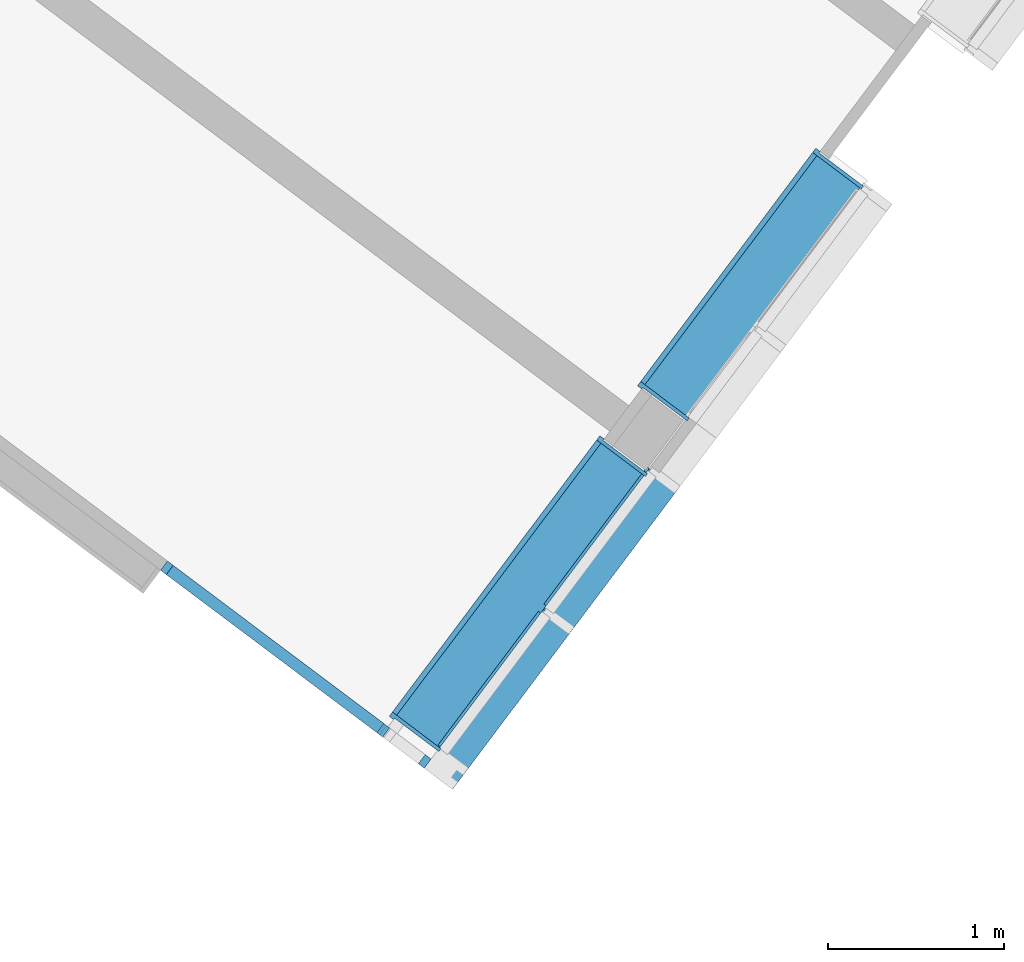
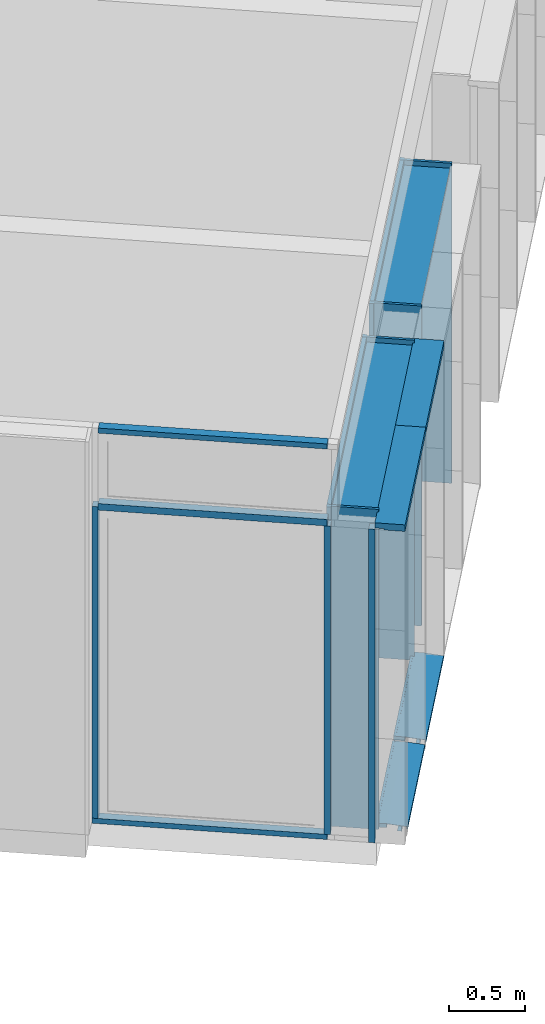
# One storey, part 15 of 243: 16 members, 4 elements without a shape of their own.
"""IFC2X3 building model written with IfcOpenShell, lengths in metres."""

from ifc_helpers import new_model, entity, si_unit, converted_unit, derived_unit, direction, frame, frame_2d, origin, origin_2d_with_axis, place, context, subcontext, project, spatial, polyline, circle_curve, parameter, trimmed, segment, composite_curve, rectangle, outline, extrude, source, transform, mapped, material, type_object, type_shapes, element, aggregate, save


model = new_model("IFC2X3")

# Units and contexts
model_context = context("Model", 3, precision=1e-05, world=origin(), true_north=direction((6.123031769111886e-17, 1.0)))
body_context = subcontext(model_context, "Body", "Model", "MODEL_VIEW")
ifc_project = project(units=[si_unit("LENGTHUNIT", "METRE"), si_unit("AREAUNIT", "SQUARE_METRE"), si_unit("VOLUMEUNIT", "CUBIC_METRE"), converted_unit("PLANEANGLEUNIT", "DEGREE", entity("IfcRatioMeasure", 0.017453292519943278), si_unit("PLANEANGLEUNIT", "RADIAN"), dimensions=[0, 0, 0, 0, 0, 0, 0]), si_unit("MASSUNIT", "GRAM", prefix="KILO"), derived_unit("MASSDENSITYUNIT", [(si_unit("MASSUNIT", "GRAM", prefix="KILO"), 1), (si_unit("LENGTHUNIT", "METRE"), -3)]), derived_unit("IONCONCENTRATIONUNIT", [(si_unit("MASSUNIT", "GRAM", prefix="KILO"), 1), (si_unit("LENGTHUNIT", "METRE"), -3)]), derived_unit("MOMENTOFINERTIAUNIT", [(si_unit("LENGTHUNIT", "METRE"), 4)]), si_unit("TIMEUNIT", "SECOND"), si_unit("FREQUENCYUNIT", "HERTZ"), si_unit("THERMODYNAMICTEMPERATUREUNIT", "DEGREE_CELSIUS"), derived_unit("THERMALTRANSMITTANCEUNIT", [(si_unit("MASSUNIT", "GRAM", prefix="KILO"), 1), (si_unit("THERMODYNAMICTEMPERATUREUNIT", "KELVIN"), -1), (si_unit("TIMEUNIT", "SECOND"), -3)]), derived_unit("THERMALCONDUCTANCEUNIT", [(si_unit("MASSUNIT", "GRAM", prefix="KILO"), 1), (si_unit("THERMODYNAMICTEMPERATUREUNIT", "KELVIN"), -1), (si_unit("TIMEUNIT", "SECOND"), -3), (si_unit("LENGTHUNIT", "METRE"), 1)]), derived_unit("VOLUMETRICFLOWRATEUNIT", [(si_unit("LENGTHUNIT", "METRE"), 3), (si_unit("TIMEUNIT", "SECOND"), -1)]), derived_unit("MASSFLOWRATEUNIT", [(si_unit("MASSUNIT", "GRAM", prefix="KILO"), 1), (si_unit("TIMEUNIT", "SECOND"), -1)]), derived_unit("ROTATIONALFREQUENCYUNIT", [(si_unit("TIMEUNIT", "SECOND"), -1)]), si_unit("ELECTRICCURRENTUNIT", "AMPERE"), si_unit("ELECTRICVOLTAGEUNIT", "VOLT"), si_unit("POWERUNIT", "WATT"), si_unit("FORCEUNIT", "NEWTON", prefix="KILO"), si_unit("ILLUMINANCEUNIT", "LUX"), si_unit("LUMINOUSFLUXUNIT", "LUMEN"), si_unit("LUMINOUSINTENSITYUNIT", "CANDELA"), derived_unit("USERDEFINED", [(si_unit("MASSUNIT", "GRAM", prefix="KILO"), -1), (si_unit("LENGTHUNIT", "METRE"), -2), (si_unit("TIMEUNIT", "SECOND"), 3), (si_unit("LUMINOUSFLUXUNIT", "LUMEN"), 1)]), derived_unit("USERDEFINED", [(si_unit("MASSUNIT", "GRAM", prefix="KILO"), 1), (si_unit("TIMEUNIT", "SECOND"), -3), (si_unit("LENGTHUNIT", "METRE"), 3), (si_unit("ELECTRICCURRENTUNIT", "AMPERE"), -2)]), derived_unit("SOUNDPOWERUNIT", [(si_unit("MASSUNIT", "GRAM", prefix="KILO"), 1), (si_unit("TIMEUNIT", "SECOND"), -3), (si_unit("LENGTHUNIT", "METRE"), 2)]), derived_unit("SOUNDPRESSUREUNIT", [(si_unit("MASSUNIT", "GRAM", prefix="KILO"), 1), (si_unit("LENGTHUNIT", "METRE"), -1), (si_unit("TIMEUNIT", "SECOND"), -2)]), derived_unit("LINEARVELOCITYUNIT", [(si_unit("LENGTHUNIT", "METRE"), 1), (si_unit("TIMEUNIT", "SECOND"), -1)]), si_unit("PRESSUREUNIT", "PASCAL"), derived_unit("USERDEFINED", [(si_unit("MASSUNIT", "GRAM", prefix="KILO"), 1), (si_unit("LENGTHUNIT", "METRE"), -2), (si_unit("TIMEUNIT", "SECOND"), -2)]), derived_unit("LINEARFORCEUNIT", [(si_unit("MASSUNIT", "GRAM", prefix="KILO"), 1), (si_unit("TIMEUNIT", "SECOND"), -2)]), derived_unit("PLANARFORCEUNIT", [(si_unit("MASSUNIT", "GRAM", prefix="KILO"), 1), (si_unit("LENGTHUNIT", "METRE"), -1), (si_unit("TIMEUNIT", "SECOND"), -2)]), derived_unit("SPECIFICHEATCAPACITYUNIT", [(si_unit("THERMODYNAMICTEMPERATUREUNIT", "KELVIN"), -1), (si_unit("LENGTHUNIT", "METRE"), 2), (si_unit("TIMEUNIT", "SECOND"), -2)]), derived_unit("HEATINGVALUEUNIT", [(si_unit("LENGTHUNIT", "METRE"), 2), (si_unit("TIMEUNIT", "SECOND"), -2)]), derived_unit("VAPORPERMEABILITYUNIT", [(si_unit("LENGTHUNIT", "METRE"), -1), (si_unit("TIMEUNIT", "SECOND"), 1)]), derived_unit("DYNAMICVISCOSITYUNIT", [(si_unit("MASSUNIT", "GRAM", prefix="KILO"), 1), (si_unit("TIMEUNIT", "SECOND"), -1), (si_unit("LENGTHUNIT", "METRE"), -1)]), derived_unit("THERMALEXPANSIONCOEFFICIENTUNIT", [(si_unit("THERMODYNAMICTEMPERATUREUNIT", "KELVIN"), -1)]), derived_unit("MODULUSOFELASTICITYUNIT", [(si_unit("MASSUNIT", "GRAM", prefix="KILO"), 1), (si_unit("LENGTHUNIT", "METRE"), -1), (si_unit("TIMEUNIT", "SECOND"), -2)]), derived_unit("ISOTHERMALMOISTURECAPACITYUNIT", [(si_unit("LENGTHUNIT", "METRE"), 3), (si_unit("MASSUNIT", "GRAM", prefix="KILO"), -1)]), derived_unit("MOISTUREDIFFUSIVITYUNIT", [(si_unit("TIMEUNIT", "SECOND"), -1), (si_unit("LENGTHUNIT", "METRE"), 2)])], contexts=[model_context])

# Site, building, storey
site_placement = place(None, frame((0.0, 0.0, 235.0), z_axis=(0.0, 0.0, 1.0), x_axis=(-0.7996477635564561, 0.6004693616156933, 0.0)))
site = spatial("IfcSite", under=ifc_project, at=site_placement, Name="Default", CompositionType="ELEMENT")
building_placement = place(site_placement, origin())
building = spatial("IfcBuilding", under=site, at=building_placement, CompositionType="ELEMENT")
storey_placement = place(building_placement, origin())
storey = spatial("IfcBuildingStorey", under=building, at=storey_placement, Name="P0- Escola", CompositionType="ELEMENT", Elevation=0.0)

# Curtain wall, members
curtain_wall_type_1 = type_object("IfcCurtainWallType", Name="Muro cortina:MC- EXT- MC2", PredefinedType="NOTDEFINED")
curtain_wall_1_placement = place(storey_placement, origin())
curtain_wall_1 = element("IfcCurtainWall", 1, at=curtain_wall_1_placement, inside=storey, type_object=curtain_wall_type_1, Name="Muro cortina:MC- EXT- MC2", ObjectType="Muro cortina:MC- EXT- MC2")
ifc_material_1 = material(Name="_Alumini- T1- Perfil")
member_type_1 = type_object("IfcMemberType", Name="Montante rectangular:MC- Alu- 140x52,5 cm- Fa patis- Superior", PredefinedType="MULLION", material=ifc_material_1)
shared_shape_1 = source(origin(), body_context, "Body", "SweptSolid", [
    extrude(outline(polyline([(-0.11366666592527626, -0.021249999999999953), (0.026333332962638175, -0.021249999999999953), (0.026333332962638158, -0.010000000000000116), (0.0873333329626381, -0.010000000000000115), (0.0873333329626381, 0.03125000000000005), (-0.11366666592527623, 0.031250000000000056), (-0.11366666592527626, -0.021249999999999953)])), frame((-0.031250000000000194, 0.0273333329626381, -1.0), z_axis=(0.0, 0.0, 1.0), x_axis=(0.0, -1.0, 0.0)), (0.0, 0.0, 1.0), 0.9999999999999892),
])
type_shapes(member_type_1, [shared_shape_1])
member_1_placement = place(curtain_wall_1_placement, frame((28.34514768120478, -22.415191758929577, 2.545), z_axis=(0.0, -1.0, 0.0), x_axis=(0.0, 0.0, 1.0)))
member_1 = element("IfcMember", 2, at=member_1_placement, type_object=member_type_1, material=ifc_material_1, Name="Montante rectangular:MC- Alu- 140x52,5 cm- Fa patis- Superior", ObjectType="Montante rectangular:MC- Alu- 140x52,5 cm- Fa patis- Superior", context=body_context, shape_type="MappedRepresentation", body=[
    mapped(shared_shape_1, transform((0.0, 0.0, 0.0), scale=1.0)),
])
member_type_2 = type_object("IfcMemberType", Name="Montante rectangular:MC- Alu- 140x52,5 cm- Fa patis- inferior", PredefinedType="MULLION", material=ifc_material_1)
shared_shape_2 = source(origin(), body_context, "Body", "SweptSolid", [
    extrude(outline(composite_curve([segment(polyline([(0.1278672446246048, -0.02586710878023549), (0.14416724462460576, -0.025867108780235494)]), True, "CONTINUOUS"), segment(polyline([(0.14416724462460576, -0.025867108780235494), (0.1441672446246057, 0.009132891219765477)]), True, "CONTINUOUS"), segment(polyline([(0.1441672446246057, 0.009132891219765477), (0.06786724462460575, 0.009132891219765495)]), True, "CONTINUOUS"), segment(polyline([(0.06786724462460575, 0.009132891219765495), (0.06786724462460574, -0.021159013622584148)]), True, "CONTINUOUS"), segment(polyline([(0.06786724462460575, -0.02115901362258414), (-0.030132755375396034, -0.012332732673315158)]), True, "CONTINUOUS"), segment(polyline([(-0.03013275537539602, -0.012332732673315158), (-0.030132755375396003, 0.027132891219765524)]), True, "CONTINUOUS"), segment(polyline([(-0.030132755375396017, 0.02713289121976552), (-0.0021327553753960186, 0.02713289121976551)]), True, "CONTINUOUS"), segment(polyline([(-0.0021327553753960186, 0.027132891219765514), (-0.0021327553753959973, 0.029132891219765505)]), True, "CONTINUOUS"), segment(polyline([(-0.0021327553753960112, 0.029132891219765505), (-0.032132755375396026, 0.029132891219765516)]), True, "CONTINUOUS"), segment(polyline([(-0.032132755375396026, 0.029132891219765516), (-0.03213275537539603, -0.012152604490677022)]), True, "CONTINUOUS"), segment(polyline([(-0.03213275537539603, -0.012152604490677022), (-0.0701327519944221, -0.008730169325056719)]), True, "CONTINUOUS"), segment(polyline([(-0.0701327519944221, -0.008730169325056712), (-0.0701327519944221, 0.005766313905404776)]), True, "CONTINUOUS"), segment(trimmed(circle_curve(frame_2d((-0.0696327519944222, 0.0057663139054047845), x_axis=(-1.0, 0.0)), 0.0004999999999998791), [parameter(269.999999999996)], [parameter(0.0)], True, "PARAMETER"), False, "CONTINUOUS"), segment(polyline([(-0.0696327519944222, 0.00626631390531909), (-0.06213275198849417, 0.006266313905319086)]), True, "CONTINUOUS"), segment(polyline([(-0.06213275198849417, 0.006266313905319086), (-0.06213275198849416, 0.008266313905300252)]), True, "CONTINUOUS"), segment(polyline([(-0.06213275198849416, 0.008266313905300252), (-0.07013275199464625, 0.008266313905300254)]), True, "CONTINUOUS"), segment(trimmed(circle_curve(frame_2d((-0.07013275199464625, 0.006266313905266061), x_axis=(0.0, 1.0)), 0.0020000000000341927), [parameter(0.0)], [parameter(90.00000002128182)], True, "PARAMETER"), True, "CONTINUOUS"), segment(polyline([(-0.07213275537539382, 0.006266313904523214), (-0.07213275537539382, -0.008730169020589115)]), True, "CONTINUOUS"), segment(trimmed(circle_curve(frame_2d((-0.07013275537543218, -0.008730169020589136), x_axis=(-1.0, 0.0)), 0.0019999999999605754), [parameter(0.0)], [parameter(84.85359280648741)], True, "PARAMETER"), True, "CONTINUOUS"), segment(polyline([(-0.07031215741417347, -0.01072210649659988), (0.06786724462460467, -0.023167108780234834)]), True, "CONTINUOUS"), segment(polyline([(0.06786724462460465, -0.023167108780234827), (0.12786724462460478, -0.023167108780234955)]), True, "CONTINUOUS"), segment(polyline([(0.12786724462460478, -0.023167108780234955), (0.1278672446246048, -0.02586710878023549)]), True, "CONTINUOUS")], self_intersect=False)), frame((-0.029132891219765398, 0.06786724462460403, -0.9737499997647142), z_axis=(0.0, 0.0, 1.0), x_axis=(0.0, -1.0, 0.0)), (0.0, 0.0, 1.0), 0.9737499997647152),
])
type_shapes(member_type_2, [shared_shape_2])
member_2_placement = place(curtain_wall_1_placement, frame((28.345147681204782, -21.441441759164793, -0.02), z_axis=(0.0, 1.0, 0.0), x_axis=(0.0, 0.0, -1.0)))
member_2 = element("IfcMember", 3, at=member_2_placement, type_object=member_type_2, material=ifc_material_1, Name="Montante rectangular:MC- Alu- 140x52,5 cm- Fa patis- inferior", ObjectType="Montante rectangular:MC- Alu- 140x52,5 cm- Fa patis- inferior", context=body_context, shape_type="MappedRepresentation", body=[
    mapped(shared_shape_2, transform((0.0, 0.0, 0.0), scale=1.0)),
])

curtain_wall_type_2 = type_object("IfcCurtainWallType", Name="Muro cortina:MC- INT- k7- Aules infantil", PredefinedType="NOTDEFINED")
curtain_wall_2_placement = place(storey_placement, origin())
curtain_wall_2 = element("IfcCurtainWall", 4, at=curtain_wall_2_placement, inside=storey, type_object=curtain_wall_type_2, Name="Muro cortina:MC- INT- k7- Aules infantil", ObjectType="Muro cortina:MC- INT- k7- Aules infantil")
ifc_material_2 = material(Name="_Fusta massisa- T1")
member_type_3 = type_object("IfcMemberType", Name="Montante rectangular:MC- Fusta- 35x3 cm- Pati aules- Remat esquerra", PredefinedType="MULLION", material=ifc_material_2)
shared_shape_3 = source(origin(), body_context, "Body", "SweptSolid", [
    extrude(outline(polyline([(-0.22000000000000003, -0.01666666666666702), (0.12500000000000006, -0.01666666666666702), (0.125, 0.013333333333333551), (0.09500000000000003, 0.013333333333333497), (0.09500000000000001, 0.003333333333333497), (-0.22000000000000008, 0.003333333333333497), (-0.22000000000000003, -0.01666666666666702)])), frame((-0.013333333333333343, 0.03000000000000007, -2.5649999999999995), z_axis=(0.0, 0.0, 1.0), x_axis=(0.0, -1.0, 0.0)), (0.0, 0.0, 1.0), 2.565),
])
type_shapes(member_type_3, [shared_shape_3])
member_3_placement = place(curtain_wall_2_placement, frame((28.64514768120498, -20.405191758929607, 2.565), z_axis=(0.0, 0.0, 1.0), x_axis=(0.0, 1.0, 0.0)))
member_3 = element("IfcMember", 5, at=member_3_placement, type_object=member_type_3, material=ifc_material_2, Name="Montante rectangular:MC- Fusta- 35x3 cm- Pati aules- Remat esquerra", ObjectType="Montante rectangular:MC- Fusta- 35x3 cm- Pati aules- Remat esquerra", context=body_context, shape_type="MappedRepresentation", body=[
    mapped(shared_shape_3, transform((0.0, 0.0, 0.0), scale=1.0)),
])
member_type_4 = type_object("IfcMemberType", Name="Montante rectangular:MC- Fusta- 35x3 cm- Pati aules- Remat dreta", PredefinedType="MULLION", material=ifc_material_2)
shared_shape_4 = source(origin(), body_context, "Body", "SweptSolid", [
    extrude(outline(polyline([(-0.22000000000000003, -0.01666666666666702), (0.12500000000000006, -0.01666666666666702), (0.125, 0.013333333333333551), (0.09500000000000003, 0.013333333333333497), (0.09500000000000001, 0.003333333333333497), (-0.22000000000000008, 0.003333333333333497), (-0.22000000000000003, -0.01666666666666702)])), frame((-0.013333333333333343, 0.03000000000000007, -2.5649999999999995), z_axis=(0.0, 0.0, 1.0), x_axis=(0.0, -1.0, 0.0)), (0.0, 0.0, 1.0), 2.565),
])
type_shapes(member_type_4, [shared_shape_4])
member_4_placement = place(curtain_wall_2_placement, frame((28.645147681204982, -22.395191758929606, 0.0), z_axis=(0.0, 0.0, -1.0), x_axis=(0.0, -1.0, 0.0)))
member_4 = element("IfcMember", 6, at=member_4_placement, type_object=member_type_4, material=ifc_material_2, Name="Montante rectangular:MC- Fusta- 35x3 cm- Pati aules- Remat dreta", ObjectType="Montante rectangular:MC- Fusta- 35x3 cm- Pati aules- Remat dreta", context=body_context, shape_type="MappedRepresentation", body=[
    mapped(shared_shape_4, transform((0.0, 0.0, 0.0), scale=1.0)),
])

# Curtain wall, member
curtain_wall_3_placement = place(storey_placement, origin())
curtain_wall_3 = element("IfcCurtainWall", 7, at=curtain_wall_3_placement, inside=storey, type_object=curtain_wall_type_2, Name="Muro cortina:MC- INT- k7- Aules infantil", ObjectType="Muro cortina:MC- INT- k7- Aules infantil")
member_5_placement = place(curtain_wall_3_placement, frame((28.64514768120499, -24.435191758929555, 0.0), z_axis=(0.0, 0.0, -1.0), x_axis=(0.0, -1.0, 0.0)))
member_5 = element("IfcMember", 8, at=member_5_placement, type_object=member_type_4, material=ifc_material_2, Name="Montante rectangular:MC- Fusta- 35x3 cm- Pati aules- Remat dreta", ObjectType="Montante rectangular:MC- Fusta- 35x3 cm- Pati aules- Remat dreta", context=body_context, shape_type="MappedRepresentation", body=[
    mapped(shared_shape_4, transform((0.0, 0.0, 0.0), scale=1.0)),
])

# Member
member_type_5 = type_object("IfcMemberType", Name="Montante rectangular:MC- Fusta- 35x3 cm- Pati aules- Remat superior", PredefinedType="MULLION", material=ifc_material_2)
shared_shape_5 = source(origin(), body_context, "Body", "SweptSolid", [
    extrude(outline(polyline([(-0.21333333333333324, -0.02666666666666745), (0.1216666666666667, -0.02666666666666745), (0.1216666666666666, 0.03333333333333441), (0.09166666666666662, 0.03333333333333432), (0.09166666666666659, -0.006666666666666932), (-0.21333333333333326, -0.006666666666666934), (-0.21333333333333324, -0.02666666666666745)])), frame((-0.033333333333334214, 0.02666666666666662, -1.929999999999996), z_axis=(0.0, 0.0, 1.0), x_axis=(0.0, -1.0, 0.0)), (0.0, 0.0, 1.0), 1.9299999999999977),
])
type_shapes(member_type_5, [shared_shape_5])
member_6_placement = place(curtain_wall_2_placement, frame((28.645147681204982, -22.365191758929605, 2.565), z_axis=(0.0, -1.0, 0.0), x_axis=(0.0, 0.0, 1.0)))
member_6 = element("IfcMember", 9, at=member_6_placement, type_object=member_type_5, material=ifc_material_2, Name="Montante rectangular:MC- Fusta- 35x3 cm- Pati aules- Remat superior", ObjectType="Montante rectangular:MC- Fusta- 35x3 cm- Pati aules- Remat superior", context=body_context, shape_type="MappedRepresentation", body=[
    mapped(shared_shape_5, transform((0.0, 0.0, 0.0), scale=1.0)),
])

aggregate(curtain_wall_2, [member_3, member_4, member_6])

member_type_6 = type_object("IfcMemberType", Name="Montante rectangular:MC- Fusta- 35x3 cm- Pati aules- Remat esquerra", PredefinedType="MULLION", material=ifc_material_2)
shared_shape_6 = source(origin(), body_context, "Body", "SweptSolid", [
    extrude(outline(polyline([(-0.22000000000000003, -0.01666666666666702), (0.12500000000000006, -0.01666666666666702), (0.12499999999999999, 0.013333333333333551), (0.09500000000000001, 0.013333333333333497), (0.09499999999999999, 0.003333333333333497), (-0.22, 0.003333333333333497), (-0.22000000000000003, -0.01666666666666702)])), frame((-0.013333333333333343, 0.030000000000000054, -2.5649999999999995), z_axis=(0.0, 0.0, 1.0), x_axis=(0.0, -1.0, 0.0)), (0.0, 0.0, 1.0), 2.565),
])
type_shapes(member_type_6, [shared_shape_6])
member_7_placement = place(curtain_wall_3_placement, frame((28.645147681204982, -22.750191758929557, 2.565), z_axis=(0.0, 0.0, 1.0), x_axis=(0.0, 1.0, 0.0)))
member_7 = element("IfcMember", 10, at=member_7_placement, type_object=member_type_6, material=ifc_material_2, Name="Montante rectangular:MC- Fusta- 35x3 cm- Pati aules- Remat esquerra", ObjectType="Montante rectangular:MC- Fusta- 35x3 cm- Pati aules- Remat esquerra", context=body_context, shape_type="MappedRepresentation", body=[
    mapped(shared_shape_6, transform((0.0, 0.0, 0.0), scale=1.0)),
])

member_type_7 = type_object("IfcMemberType", Name="Montante rectangular:MC- Fusta- 35x3 cm- Pati aules- Remat superior", PredefinedType="MULLION", material=ifc_material_2)
shared_shape_7 = source(origin(), body_context, "Body", "SweptSolid", [
    extrude(outline(polyline([(-0.2133333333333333, -0.02666666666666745), (0.12166666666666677, -0.02666666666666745), (0.1216666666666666, 0.03333333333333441), (0.09166666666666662, 0.03333333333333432), (0.0916666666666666, -0.006666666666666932), (-0.21333333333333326, -0.006666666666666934), (-0.2133333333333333, -0.02666666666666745)])), frame((-0.033333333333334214, 0.026666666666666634, -1.624999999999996), z_axis=(0.0, 0.0, 1.0), x_axis=(0.0, -1.0, 0.0)), (0.0, 0.0, 1.0), 1.6249999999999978),
])
type_shapes(member_type_7, [shared_shape_7])
member_8_placement = place(curtain_wall_3_placement, frame((28.64514768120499, -24.40519175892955, 2.565), z_axis=(0.0, -1.0, 0.0), x_axis=(0.0, 0.0, 1.0)))
member_8 = element("IfcMember", 11, at=member_8_placement, type_object=member_type_7, material=ifc_material_2, Name="Montante rectangular:MC- Fusta- 35x3 cm- Pati aules- Remat superior", ObjectType="Montante rectangular:MC- Fusta- 35x3 cm- Pati aules- Remat superior", context=body_context, shape_type="MappedRepresentation", body=[
    mapped(shared_shape_7, transform((0.0, 0.0, 0.0), scale=1.0)),
])

aggregate(curtain_wall_3, [member_8, member_5, member_7])

member_type_8 = type_object("IfcMemberType", Name="Montante rectangular:MC- Alu- 140x52,5 cm- Fa patis- Superior", PredefinedType="MULLION", material=ifc_material_1)
shared_shape_8 = source(origin(), body_context, "Body", "SweptSolid", [
    extrude(outline(polyline([(-0.11366666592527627, -0.021249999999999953), (0.02633333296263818, -0.021249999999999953), (0.02633333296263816, -0.010000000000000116), (0.08733333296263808, -0.010000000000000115), (0.08733333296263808, 0.03125000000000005), (-0.11366666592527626, 0.031250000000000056), (-0.11366666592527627, -0.021249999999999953)])), frame((-0.031250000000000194, 0.027333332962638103, -1.1262500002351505), z_axis=(0.0, 0.0, 1.0), x_axis=(0.0, -1.0, 0.0)), (0.0, 0.0, 1.0), 1.1262500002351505),
])
type_shapes(member_type_8, [shared_shape_8])
member_9_placement = place(curtain_wall_1_placement, frame((28.345147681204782, -21.415191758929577, 2.545), z_axis=(0.0, -1.0, 0.0), x_axis=(0.0, 0.0, 1.0)))
member_9 = element("IfcMember", 12, at=member_9_placement, type_object=member_type_8, material=ifc_material_1, Name="Montante rectangular:MC- Alu- 140x52,5 cm- Fa patis- Superior", ObjectType="Montante rectangular:MC- Alu- 140x52,5 cm- Fa patis- Superior", context=body_context, shape_type="MappedRepresentation", body=[
    mapped(shared_shape_8, transform((0.0, 0.0, 0.0), scale=1.0)),
])

member_type_9 = type_object("IfcMemberType", Name="Montante rectangular:MC- Alu- 140x52,5 cm- Fa patis- inferior", PredefinedType="MULLION", material=ifc_material_1)
shared_shape_9 = source(origin(), body_context, "Body", "SweptSolid", [
    extrude(outline(composite_curve([segment(polyline([(0.1278672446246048, -0.02586710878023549), (0.14416724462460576, -0.025867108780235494)]), True, "CONTINUOUS"), segment(polyline([(0.14416724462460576, -0.025867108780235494), (0.1441672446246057, 0.009132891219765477)]), True, "CONTINUOUS"), segment(polyline([(0.1441672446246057, 0.009132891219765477), (0.06786724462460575, 0.009132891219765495)]), True, "CONTINUOUS"), segment(polyline([(0.06786724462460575, 0.009132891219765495), (0.06786724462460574, -0.021159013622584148)]), True, "CONTINUOUS"), segment(polyline([(0.06786724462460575, -0.02115901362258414), (-0.030132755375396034, -0.012332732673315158)]), True, "CONTINUOUS"), segment(polyline([(-0.03013275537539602, -0.012332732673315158), (-0.030132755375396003, 0.027132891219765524)]), True, "CONTINUOUS"), segment(polyline([(-0.030132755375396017, 0.02713289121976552), (-0.0021327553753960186, 0.02713289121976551)]), True, "CONTINUOUS"), segment(polyline([(-0.0021327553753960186, 0.027132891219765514), (-0.0021327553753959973, 0.029132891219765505)]), True, "CONTINUOUS"), segment(polyline([(-0.0021327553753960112, 0.029132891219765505), (-0.032132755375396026, 0.029132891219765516)]), True, "CONTINUOUS"), segment(polyline([(-0.032132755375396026, 0.029132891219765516), (-0.03213275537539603, -0.012152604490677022)]), True, "CONTINUOUS"), segment(polyline([(-0.03213275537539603, -0.012152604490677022), (-0.0701327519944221, -0.008730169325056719)]), True, "CONTINUOUS"), segment(polyline([(-0.0701327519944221, -0.008730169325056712), (-0.0701327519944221, 0.005766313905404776)]), True, "CONTINUOUS"), segment(trimmed(circle_curve(frame_2d((-0.0696327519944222, 0.0057663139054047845), x_axis=(-1.0, 0.0)), 0.0004999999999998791), [parameter(269.999999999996)], [parameter(0.0)], True, "PARAMETER"), False, "CONTINUOUS"), segment(polyline([(-0.0696327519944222, 0.00626631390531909), (-0.06213275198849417, 0.006266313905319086)]), True, "CONTINUOUS"), segment(polyline([(-0.06213275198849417, 0.006266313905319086), (-0.06213275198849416, 0.008266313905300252)]), True, "CONTINUOUS"), segment(polyline([(-0.06213275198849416, 0.008266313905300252), (-0.07013275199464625, 0.008266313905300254)]), True, "CONTINUOUS"), segment(trimmed(circle_curve(frame_2d((-0.07013275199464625, 0.006266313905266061), x_axis=(0.0, 1.0)), 0.0020000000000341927), [parameter(0.0)], [parameter(90.00000002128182)], True, "PARAMETER"), True, "CONTINUOUS"), segment(polyline([(-0.07213275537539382, 0.006266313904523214), (-0.07213275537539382, -0.008730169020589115)]), True, "CONTINUOUS"), segment(trimmed(circle_curve(frame_2d((-0.07013275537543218, -0.008730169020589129), x_axis=(-1.0, 0.0)), 0.0019999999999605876), [parameter(0.0)], [parameter(84.85359280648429)], True, "PARAMETER"), True, "CONTINUOUS"), segment(polyline([(-0.07031215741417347, -0.01072210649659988), (0.06786724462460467, -0.023167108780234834)]), True, "CONTINUOUS"), segment(polyline([(0.06786724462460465, -0.023167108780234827), (0.12786724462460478, -0.023167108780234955)]), True, "CONTINUOUS"), segment(polyline([(0.12786724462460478, -0.023167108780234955), (0.1278672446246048, -0.02586710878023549)]), True, "CONTINUOUS")], self_intersect=False)), frame((-0.029132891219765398, 0.06786724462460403, -0.9474999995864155), z_axis=(0.0, 0.0, 1.0), x_axis=(0.0, -1.0, 0.0)), (0.0, 0.0, 1.0), 0.9474999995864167),
])
type_shapes(member_type_9, [shared_shape_9])
member_10_placement = place(curtain_wall_1_placement, frame((28.345147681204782, -20.441441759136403, -0.02), z_axis=(0.0, 1.0, 0.0), x_axis=(0.0, 0.0, -1.0)))
member_10 = element("IfcMember", 13, at=member_10_placement, type_object=member_type_9, material=ifc_material_1, Name="Montante rectangular:MC- Alu- 140x52,5 cm- Fa patis- inferior", ObjectType="Montante rectangular:MC- Alu- 140x52,5 cm- Fa patis- inferior", context=body_context, shape_type="MappedRepresentation", body=[
    mapped(shared_shape_9, transform((0.0, 0.0, 0.0), scale=1.0)),
])

aggregate(curtain_wall_1, [member_10, member_9, member_2, member_1])

# Curtain wall, members
curtain_wall_type_3 = type_object("IfcCurtainWallType", Name="Muro cortina:MC- EXT- AL1- Fa porxo", PredefinedType="NOTDEFINED")
curtain_wall_4_placement = place(storey_placement, origin())
curtain_wall_4 = element("IfcCurtainWall", 14, at=curtain_wall_4_placement, inside=storey, type_object=curtain_wall_type_3, Name="Muro cortina:MC- EXT- AL1- Fa porxo", ObjectType="Muro cortina:MC- EXT- AL1- Fa porxo")
member_type_10 = type_object("IfcMemberType", Name="Montante rectangular:MC- Alu- 65x41 cm- Fa Porxo- Centre", PredefinedType="MULLION", material=ifc_material_1)
shared_shape_10 = source(origin(), body_context, "Body", "SweptSolid", [
    extrude(rectangle(XDim=0.06500000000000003, YDim=0.041000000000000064, at=origin_2d_with_axis()), frame((-0.02050000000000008, 0.03249999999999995, -1.5144959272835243), z_axis=(0.0, 0.0, 1.0), x_axis=(0.0, -1.0, 0.0)), (0.0, 0.0, 1.0), 1.5144959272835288),
])
type_shapes(member_type_10, [shared_shape_10])
member_11_placement = place(curtain_wall_4_placement, frame((30.234143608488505, -20.288941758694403, 3.150000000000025), z_axis=(1.0, 0.0, 0.0), x_axis=(0.0, 0.0, 1.0)))
member_11 = element("IfcMember", 15, at=member_11_placement, type_object=member_type_10, material=ifc_material_1, Name="Montante rectangular:MC- Alu- 65x41 cm- Fa Porxo- Centre", ObjectType="Montante rectangular:MC- Alu- 65x41 cm- Fa Porxo- Centre", context=body_context, shape_type="MappedRepresentation", body=[
    mapped(shared_shape_10, transform((0.0, 0.0, 0.0), scale=1.0)),
])
member_type_11 = type_object("IfcMemberType", Name="Montante rectangular:MC- Alu- 65x41 cm- Fa Porxo- Centre", PredefinedType="MULLION", material=ifc_material_1)
shared_shape_11 = source(origin(), body_context, "Body", "SweptSolid", [
    extrude(rectangle(XDim=0.06500000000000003, YDim=0.041000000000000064, at=origin_2d_with_axis()), frame((-0.02050000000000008, 0.032499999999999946, -2.4977500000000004), z_axis=(0.0, 0.0, 1.0), x_axis=(0.0, -1.0, 0.0)), (0.0, 0.0, 1.0), 2.4977500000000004),
])
type_shapes(member_type_11, [shared_shape_11])
member_12_placement = place(curtain_wall_4_placement, frame((30.275143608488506, -20.288941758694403, 0.021000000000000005), z_axis=(0.0, 0.0, -1.0), x_axis=(1.0, 0.0, 0.0)))
member_12 = element("IfcMember", 16, at=member_12_placement, type_object=member_type_11, material=ifc_material_1, Name="Montante rectangular:MC- Alu- 65x41 cm- Fa Porxo- Centre", ObjectType="Montante rectangular:MC- Alu- 65x41 cm- Fa Porxo- Centre", context=body_context, shape_type="MappedRepresentation", body=[
    mapped(shared_shape_11, transform((0.0, 0.0, 0.0), scale=1.0)),
])
member_type_12 = type_object("IfcMemberType", Name="Montante rectangular:MC- Alu- 65x41 cm- Fa Porxo- Centre", PredefinedType="MULLION", material=ifc_material_1)
shared_shape_12 = source(origin(), body_context, "Body", "SweptSolid", [
    extrude(rectangle(XDim=0.06500000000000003, YDim=0.041000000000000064, at=frame_2d((0.0, 3.469446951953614e-18), x_axis=(1.0, 0.0))), frame((-0.02049999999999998, 0.03249999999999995, -2.5122499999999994), z_axis=(0.0, 0.0, 1.0), x_axis=(0.0, -1.0, 0.0)), (0.0, 0.0, 1.0), 2.5122499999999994),
])
type_shapes(member_type_12, [shared_shape_12])
member_13_placement = place(curtain_wall_4_placement, frame((28.40514768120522, -20.288941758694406, 2.49225), z_axis=(0.0, 0.0, 1.0), x_axis=(-1.0, 0.0, 0.0)))
member_13 = element("IfcMember", 17, at=member_13_placement, type_object=member_type_12, material=ifc_material_1, Name="Montante rectangular:MC- Alu- 65x41 cm- Fa Porxo- Centre", ObjectType="Montante rectangular:MC- Alu- 65x41 cm- Fa Porxo- Centre", context=body_context, shape_type="MappedRepresentation", body=[
    mapped(shared_shape_12, transform((0.0, 0.0, 0.0), scale=1.0)),
])
member_type_13 = type_object("IfcMemberType", Name="Montante rectangular:MC- Alu- 65x41 cm- Fa Porxo- Centre", PredefinedType="MULLION", material=ifc_material_1)
shared_shape_13 = source(origin(), body_context, "Body", "SweptSolid", [
    extrude(rectangle(XDim=0.06500000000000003, YDim=0.041000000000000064, at=frame_2d((0.0, 3.469446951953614e-18), x_axis=(1.0, 0.0))), frame((-0.02049999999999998, 0.032499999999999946, -1.5554959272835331), z_axis=(0.0, 0.0, 1.0), x_axis=(0.0, -1.0, 0.0)), (0.0, 0.0, 1.0), 1.5554959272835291),
])
type_shapes(member_type_13, [shared_shape_13])
member_14_placement = place(curtain_wall_4_placement, frame((28.719647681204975, -20.288941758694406, -0.02000000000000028), z_axis=(-1.0, 0.0, 0.0), x_axis=(0.0, 0.0, -1.0)))
member_14 = element("IfcMember", 18, at=member_14_placement, type_object=member_type_13, material=ifc_material_1, Name="Montante rectangular:MC- Alu- 65x41 cm- Fa Porxo- Centre", ObjectType="Montante rectangular:MC- Alu- 65x41 cm- Fa Porxo- Centre", context=body_context, shape_type="MappedRepresentation", body=[
    mapped(shared_shape_13, transform((0.0, 0.0, 0.0), scale=1.0)),
])
member_type_14 = type_object("IfcMemberType", Name="Montante rectangular:MC- Alu- 65x52,5 cm- Fa Porxo- Centre", PredefinedType="MULLION", material=ifc_material_1)
shared_shape_14 = source(origin(), body_context, "Body", "SweptSolid", [
    extrude(rectangle(XDim=0.06500000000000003, YDim=0.053000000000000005, at=frame_2d((3.469446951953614e-18, 5.204170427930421e-18), x_axis=(1.0, 0.0))), frame((0.0, 0.03249999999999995, -1.5144959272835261), z_axis=(0.0, 0.0, 1.0), x_axis=(0.0, -1.0, 0.0)), (0.0, 0.0, 1.0), 1.5144959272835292),
])
type_shapes(member_type_14, [shared_shape_14])
member_15_placement = place(curtain_wall_4_placement, frame((30.234143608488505, -20.288941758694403, 2.51875), z_axis=(1.0, 0.0, 0.0), x_axis=(0.0, 0.0, 1.0)))
member_15 = element("IfcMember", 19, at=member_15_placement, type_object=member_type_14, material=ifc_material_1, Name="Montante rectangular:MC- Alu- 65x52,5 cm- Fa Porxo- Centre", ObjectType="Montante rectangular:MC- Alu- 65x52,5 cm- Fa Porxo- Centre", context=body_context, shape_type="MappedRepresentation", body=[
    mapped(shared_shape_14, transform((0.0, 0.0, 0.0), scale=1.0)),
])
member_type_15 = type_object("IfcMemberType", Name="Montante rectangular:MC- Alu- 65x41 cm- Fa Porxo- Centre", PredefinedType="MULLION", material=ifc_material_1)
shared_shape_15 = source(origin(), body_context, "Body", "SweptSolid", [
    extrude(rectangle(XDim=0.06500000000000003, YDim=0.04100000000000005, at=frame_2d((3.469446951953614e-18, 6.938893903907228e-18), x_axis=(1.0, 0.0))), frame((0.0, 0.03249999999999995, -2.4712500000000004), z_axis=(0.0, 0.0, 1.0), x_axis=(0.0, -1.0, 0.0)), (0.0, 0.0, 1.0), 2.4712500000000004),
])
type_shapes(member_type_15, [shared_shape_15])
member_16_placement = place(curtain_wall_4_placement, frame((28.719647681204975, -20.288941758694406, 0.020999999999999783), z_axis=(0.0, 0.0, -1.0), x_axis=(1.0, 0.0, 0.0)))
member_16 = element("IfcMember", 20, at=member_16_placement, type_object=member_type_15, material=ifc_material_1, Name="Montante rectangular:MC- Alu- 65x41 cm- Fa Porxo- Centre", ObjectType="Montante rectangular:MC- Alu- 65x41 cm- Fa Porxo- Centre", context=body_context, shape_type="MappedRepresentation", body=[
    mapped(shared_shape_15, transform((0.0, 0.0, 0.0), scale=1.0)),
])
aggregate(curtain_wall_4, [member_11, member_12, member_13, member_14, member_15, member_16])

save(model, "model.ifc")
